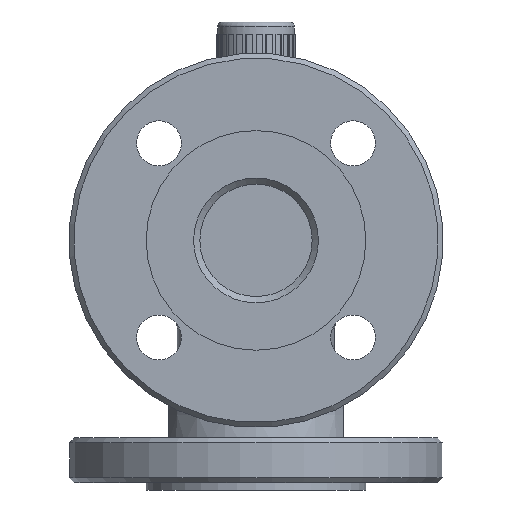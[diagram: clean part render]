
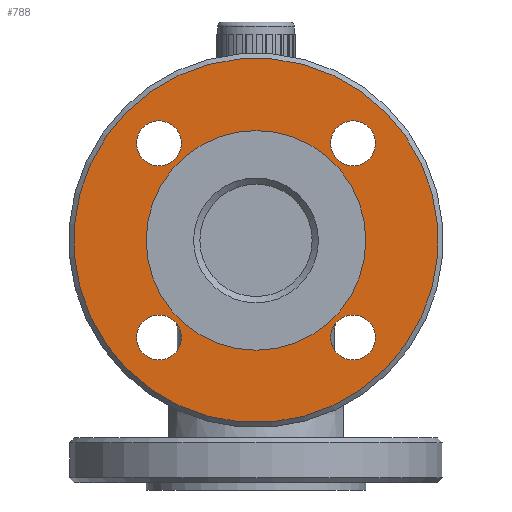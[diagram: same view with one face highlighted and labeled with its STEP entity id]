
A CAD part, left-side view. The second image highlights one B-rep face of the part: STEP entity #788.
In plain terms, the highlighted planar face has unit normal (-1, 0, 0).
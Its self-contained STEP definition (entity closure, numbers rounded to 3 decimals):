
#183=FACE_BOUND('',#1394,.T.);
#184=FACE_BOUND('',#1395,.T.);
#185=FACE_BOUND('',#1396,.T.);
#186=FACE_BOUND('',#1397,.T.);
#187=FACE_BOUND('',#1398,.T.);
#188=FACE_BOUND('',#1399,.T.);
#622=PLANE('',#4958);
#788=ADVANCED_FACE('',(#183,#184,#185,#186,#187,#188),#622,.T.);
#1394=EDGE_LOOP('',(#2211));
#1395=EDGE_LOOP('',(#2212));
#1396=EDGE_LOOP('',(#2213));
#1397=EDGE_LOOP('',(#2214));
#1398=EDGE_LOOP('',(#2215));
#1399=EDGE_LOOP('',(#2216));
#1855=CIRCLE('',#4914,44.);
#1876=CIRCLE('',#4953,73.);
#1877=CIRCLE('',#4954,9.);
#1878=CIRCLE('',#4955,9.);
#1879=CIRCLE('',#4956,9.);
#1880=CIRCLE('',#4957,9.);
#2211=ORIENTED_EDGE('',*,*,#3857,.T.);
#2212=ORIENTED_EDGE('',*,*,#3830,.T.);
#2213=ORIENTED_EDGE('',*,*,#3858,.T.);
#2214=ORIENTED_EDGE('',*,*,#3859,.T.);
#2215=ORIENTED_EDGE('',*,*,#3860,.T.);
#2216=ORIENTED_EDGE('',*,*,#3861,.T.);
#3386=VERTEX_POINT('',#6959);
#3405=VERTEX_POINT('',#7029);
#3406=VERTEX_POINT('',#7031);
#3407=VERTEX_POINT('',#7033);
#3408=VERTEX_POINT('',#7035);
#3409=VERTEX_POINT('',#7037);
#3830=EDGE_CURVE('',#3386,#3386,#1855,.T.);
#3857=EDGE_CURVE('',#3405,#3405,#1876,.T.);
#3858=EDGE_CURVE('',#3406,#3406,#1877,.T.);
#3859=EDGE_CURVE('',#3407,#3407,#1878,.T.);
#3860=EDGE_CURVE('',#3408,#3408,#1879,.T.);
#3861=EDGE_CURVE('',#3409,#3409,#1880,.T.);
#4914=AXIS2_PLACEMENT_3D('',#6958,#5523,#5524);
#4953=AXIS2_PLACEMENT_3D('',#7028,#5605,#5606);
#4954=AXIS2_PLACEMENT_3D('',#7030,#5607,#5608);
#4955=AXIS2_PLACEMENT_3D('',#7032,#5609,#5610);
#4956=AXIS2_PLACEMENT_3D('',#7034,#5611,#5612);
#4957=AXIS2_PLACEMENT_3D('',#7036,#5613,#5614);
#4958=AXIS2_PLACEMENT_3D('',#7038,#5615,#5616);
#5523=DIRECTION('',(1.,0.,0.));
#5524=DIRECTION('',(0.,0.,1.));
#5605=DIRECTION('',(-1.,0.,0.));
#5606=DIRECTION('',(0.,0.707,0.707));
#5607=DIRECTION('',(1.,0.,0.));
#5608=DIRECTION('',(0.,-0.707,0.707));
#5609=DIRECTION('',(1.,0.,0.));
#5610=DIRECTION('',(0.,0.707,0.707));
#5611=DIRECTION('',(1.,0.,0.));
#5612=DIRECTION('',(0.,0.707,-0.707));
#5613=DIRECTION('',(1.,0.,0.));
#5614=DIRECTION('',(0.,-0.707,-0.707));
#5615=DIRECTION('',(-1.,0.,0.));
#5616=DIRECTION('',(0.,0.707,0.707));
#6958=CARTESIAN_POINT('',(3.,0.,100.));
#6959=CARTESIAN_POINT('',(3.,0.,144.));
#7028=CARTESIAN_POINT('',(3.,0.,100.));
#7029=CARTESIAN_POINT('',(3.,51.619,151.619));
#7030=CARTESIAN_POINT('',(3.,38.891,138.891));
#7031=CARTESIAN_POINT('',(3.,32.527,145.255));
#7032=CARTESIAN_POINT('',(3.,38.891,61.109));
#7033=CARTESIAN_POINT('',(3.,45.255,67.473));
#7034=CARTESIAN_POINT('',(3.,-38.891,61.109));
#7035=CARTESIAN_POINT('',(3.,-32.527,54.745));
#7036=CARTESIAN_POINT('',(3.,-38.891,138.891));
#7037=CARTESIAN_POINT('',(3.,-45.255,132.527));
#7038=CARTESIAN_POINT('',(3.,0.,100.));
